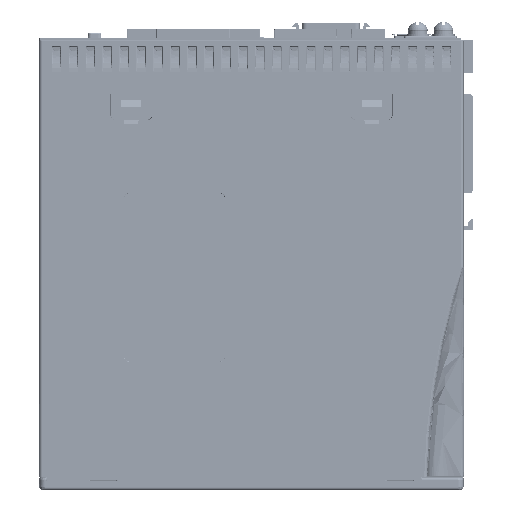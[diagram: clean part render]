
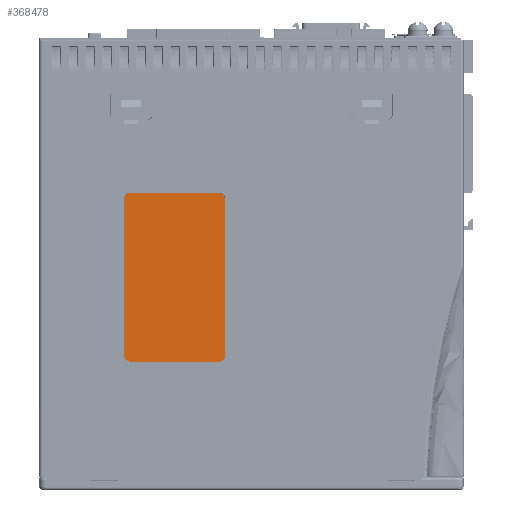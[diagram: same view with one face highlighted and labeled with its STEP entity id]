
A CAD part, front view. The second image highlights one B-rep face of the part: STEP entity #368478.
In plain terms, the highlighted planar face has unit normal (0, -1, 0).
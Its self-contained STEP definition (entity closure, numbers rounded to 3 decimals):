
#351289=CARTESIAN_POINT('',(-11.4,-27.2,-32.6));
#351290=DIRECTION('',(0.,-1.,0.));
#351291=DIRECTION('',(0.,0.,-1.));
#351292=AXIS2_PLACEMENT_3D('',#351289,#351290,#351291);
#351297=DIRECTION('',(1.,0.,0.));
#351298=VECTOR('',#351297,31.6);
#351299=CARTESIAN_POINT('',(-43.,-27.2,-34.6));
#351300=LINE('',#351299,#351298);
#351304=CARTESIAN_POINT('',(-43.,-27.2,-32.6));
#351305=DIRECTION('',(0.,-1.,0.));
#351306=DIRECTION('',(-1.,0.,0.));
#351307=AXIS2_PLACEMENT_3D('',#351304,#351305,#351306);
#351312=DIRECTION('',(0.,0.,-1.));
#351313=VECTOR('',#351312,55.6);
#351314=CARTESIAN_POINT('',(-45.,-27.2,23.));
#351315=LINE('',#351314,#351313);
#351319=CARTESIAN_POINT('',(-43.,-27.2,23.));
#351320=DIRECTION('',(0.,-1.,0.));
#351321=DIRECTION('',(0.,0.,1.));
#351322=AXIS2_PLACEMENT_3D('',#351319,#351320,#351321);
#351327=DIRECTION('',(-1.,0.,0.));
#351328=VECTOR('',#351327,31.6);
#351329=CARTESIAN_POINT('',(-11.4,-27.2,25.));
#351330=LINE('',#351329,#351328);
#351334=CARTESIAN_POINT('',(-11.4,-27.2,23.));
#351335=DIRECTION('',(0.,-1.,0.));
#351336=DIRECTION('',(1.,0.,0.));
#351337=AXIS2_PLACEMENT_3D('',#351334,#351335,#351336);
#351342=DIRECTION('',(0.,0.,-1.));
#351343=VECTOR('',#351342,55.6);
#351344=CARTESIAN_POINT('',(-9.4,-27.2,23.));
#351345=LINE('',#351344,#351343);
#366057=CARTESIAN_POINT('',(-45.,-27.2,-32.6));
#366058=CARTESIAN_POINT('',(-43.,-27.2,-34.6));
#366059=VERTEX_POINT('',#366057);
#366060=VERTEX_POINT('',#366058);
#366061=CARTESIAN_POINT('',(-43.,-27.2,25.));
#366062=CARTESIAN_POINT('',(-45.,-27.2,23.));
#366063=VERTEX_POINT('',#366061);
#366064=VERTEX_POINT('',#366062);
#366738=CARTESIAN_POINT('',(-11.4,-27.2,-34.6));
#366739=CARTESIAN_POINT('',(-9.4,-27.2,-32.6));
#366740=VERTEX_POINT('',#366738);
#366741=VERTEX_POINT('',#366739);
#366742=CARTESIAN_POINT('',(-9.4,-27.2,23.));
#366743=CARTESIAN_POINT('',(-11.4,-27.2,25.));
#366744=VERTEX_POINT('',#366742);
#366745=VERTEX_POINT('',#366743);
#368463=CARTESIAN_POINT('',(0.,-27.2,0.));
#368464=DIRECTION('',(0.,-1.,0.));
#368465=DIRECTION('',(-1.,0.,0.));
#368466=AXIS2_PLACEMENT_3D('',#368463,#368464,#368465);
#368467=PLANE('',#368466);
#368468=ORIENTED_EDGE('',*,*,#368457,.F.);
#368469=ORIENTED_EDGE('',*,*,#368359,.F.);
#368470=ORIENTED_EDGE('',*,*,#368374,.F.);
#368471=ORIENTED_EDGE('',*,*,#368388,.F.);
#368472=ORIENTED_EDGE('',*,*,#368402,.F.);
#368473=ORIENTED_EDGE('',*,*,#368416,.F.);
#368474=ORIENTED_EDGE('',*,*,#368430,.F.);
#368475=ORIENTED_EDGE('',*,*,#368444,.T.);
#368476=EDGE_LOOP('',(#368468,#368469,#368470,#368471,#368472,#368473,#368474,
#368475));
#368477=FACE_OUTER_BOUND('',#368476,.F.);
#368478=ADVANCED_FACE('',(#368477),#368467,.T.);
#351293=CIRCLE('',#351292,2.);
#351308=CIRCLE('',#351307,2.);
#351323=CIRCLE('',#351322,2.);
#351338=CIRCLE('',#351337,2.);
#368359=EDGE_CURVE('',#366060,#366740,#351300,.T.);
#368374=EDGE_CURVE('',#366059,#366060,#351308,.T.);
#368388=EDGE_CURVE('',#366064,#366059,#351315,.T.);
#368402=EDGE_CURVE('',#366063,#366064,#351323,.T.);
#368416=EDGE_CURVE('',#366745,#366063,#351330,.T.);
#368430=EDGE_CURVE('',#366744,#366745,#351338,.T.);
#368444=EDGE_CURVE('',#366744,#366741,#351345,.T.);
#368457=EDGE_CURVE('',#366740,#366741,#351293,.T.);
